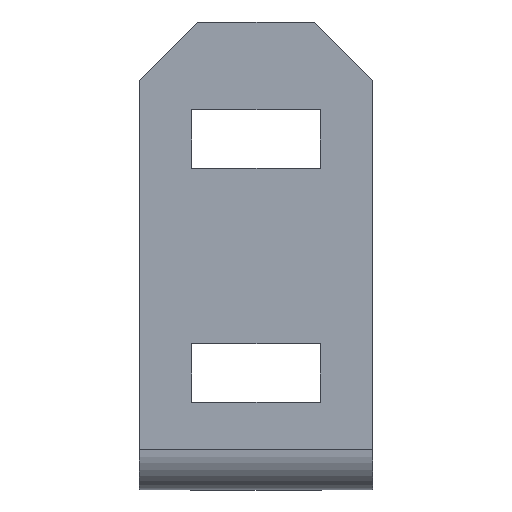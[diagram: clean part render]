
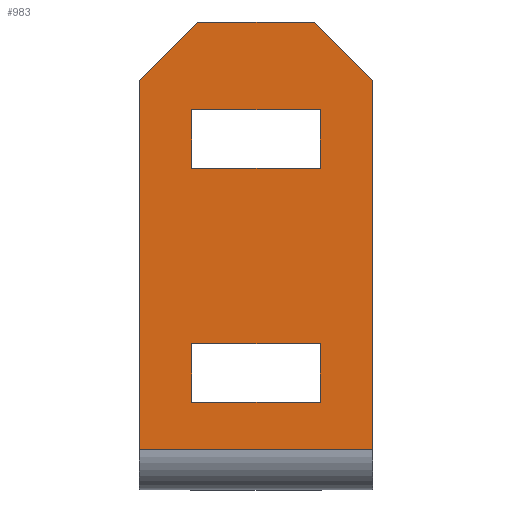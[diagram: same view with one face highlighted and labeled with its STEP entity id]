
A CAD part, front view. The second image highlights one B-rep face of the part: STEP entity #983.
In plain terms, the highlighted planar face has unit normal (0, -1, 0).
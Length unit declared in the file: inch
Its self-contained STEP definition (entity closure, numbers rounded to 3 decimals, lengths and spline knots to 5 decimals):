
#6 = ORIENTED_EDGE ( 'NONE', *, *, #1031, .F. ) ;
#20 = EDGE_LOOP ( 'NONE', ( #85, #84, #83, #82, #104, #103 ) ) ;
#21 = EDGE_LOOP ( 'NONE', ( #67, #34, #6, #105 ) ) ;
#34 = ORIENTED_EDGE ( 'NONE', *, *, #1030, .F. ) ;
#54 = EDGE_LOOP ( 'NONE', ( #81, #80, #79, #86 ) ) ;
#67 = ORIENTED_EDGE ( 'NONE', *, *, #1029, .F. ) ;
#79 = ORIENTED_EDGE ( 'NONE', *, *, #1035, .F. ) ;
#80 = ORIENTED_EDGE ( 'NONE', *, *, #1034, .F. ) ;
#81 = ORIENTED_EDGE ( 'NONE', *, *, #1033, .F. ) ;
#82 = ORIENTED_EDGE ( 'NONE', *, *, #1039, .T. ) ;
#83 = ORIENTED_EDGE ( 'NONE', *, *, #1038, .F. ) ;
#84 = ORIENTED_EDGE ( 'NONE', *, *, #1037, .T. ) ;
#85 = ORIENTED_EDGE ( 'NONE', *, *, #1015, .F. ) ;
#86 = ORIENTED_EDGE ( 'NONE', *, *, #1036, .F. ) ;
#103 = ORIENTED_EDGE ( 'NONE', *, *, #1040, .T. ) ;
#104 = ORIENTED_EDGE ( 'NONE', *, *, #1013, .F. ) ;
#105 = ORIENTED_EDGE ( 'NONE', *, *, #1032, .F. ) ;
#112 = LINE ( 'NONE', #128, #957 ) ;
#121 = LINE ( 'NONE', #122, #955 ) ;
#122 = CARTESIAN_POINT ( 'NONE',  ( 0., 0., -2. ) ) ;
#123 = DIRECTION ( 'NONE',  ( 0., 0., 1. ) ) ;
#128 = CARTESIAN_POINT ( 'NONE',  ( 1., 0., -2. ) ) ;
#129 = DIRECTION ( 'NONE',  ( 0., 0., -1. ) ) ;
#146 = LINE ( 'NONE', #185, #940 ) ;
#164 = LINE ( 'NONE', #188, #934 ) ;
#169 = LINE ( 'NONE', #170, #939 ) ;
#170 = CARTESIAN_POINT ( 'NONE',  ( 0.775, 0., -1.375 ) ) ;
#171 = DIRECTION ( 'NONE',  ( -1., 0., 0. ) ) ;
#172 = LINE ( 'NONE', #173, #938 ) ;
#173 = CARTESIAN_POINT ( 'NONE',  ( 0.775, 0., -1.625 ) ) ;
#174 = DIRECTION ( 'NONE',  ( 0., 0., 1. ) ) ;
#175 = LINE ( 'NONE', #176, #937 ) ;
#176 = CARTESIAN_POINT ( 'NONE',  ( 0.775, 0., -1.625 ) ) ;
#177 = DIRECTION ( 'NONE',  ( 1., 0., 0. ) ) ;
#178 = LINE ( 'NONE', #179, #936 ) ;
#179 = CARTESIAN_POINT ( 'NONE',  ( 0.225, 0., -1.625 ) ) ;
#180 = DIRECTION ( 'NONE',  ( 0., 0., -1. ) ) ;
#181 = LINE ( 'NONE', #183, #935 ) ;
#182 = LINE ( 'NONE', #191, #933 ) ;
#183 = CARTESIAN_POINT ( 'NONE',  ( 0.775, 0., -0.375 ) ) ;
#184 = DIRECTION ( 'NONE',  ( -1., 0., 0. ) ) ;
#185 = CARTESIAN_POINT ( 'NONE',  ( 0.775, 0., -0.625 ) ) ;
#186 = LINE ( 'NONE', #194, #932 ) ;
#187 = DIRECTION ( 'NONE',  ( 0., 0., 1. ) ) ;
#188 = CARTESIAN_POINT ( 'NONE',  ( 0.775, 0., -0.625 ) ) ;
#189 = LINE ( 'NONE', #196, #931 ) ;
#190 = DIRECTION ( 'NONE',  ( 1., 0., 0. ) ) ;
#191 = CARTESIAN_POINT ( 'NONE',  ( 0.225, 0., -0.625 ) ) ;
#192 = LINE ( 'NONE', #198, #930 ) ;
#193 = DIRECTION ( 'NONE',  ( 0., 0., -1. ) ) ;
#194 = CARTESIAN_POINT ( 'NONE',  ( 1., 0., -0.25 ) ) ;
#195 = DIRECTION ( 'NONE',  ( -0.707, 0., 0.707 ) ) ;
#196 = CARTESIAN_POINT ( 'NONE',  ( 0., 0., 0. ) ) ;
#197 = DIRECTION ( 'NONE',  ( 1., 0., 0. ) ) ;
#198 = CARTESIAN_POINT ( 'NONE',  ( 0.25, 0., 0. ) ) ;
#199 = DIRECTION ( 'NONE',  ( -0.707, 0., -0.707 ) ) ;
#200 = LINE ( 'NONE', #201, #928 ) ;
#201 = CARTESIAN_POINT ( 'NONE',  ( 0., 0., -1.827 ) ) ;
#202 = DIRECTION ( 'NONE',  ( 1., 0., 0. ) ) ;
#606 = DIRECTION ( 'NONE',  ( 0., 0., 1. ) ) ;
#610 = PLANE ( 'NONE',  #976 ) ;
#611 = FACE_OUTER_BOUND ( 'NONE', #20, .T. ) ;
#615 = FACE_BOUND ( 'NONE', #21, .T. ) ;
#616 = CARTESIAN_POINT ( 'NONE',  ( 0., 0., 0. ) ) ;
#620 = FACE_BOUND ( 'NONE', #54, .T. ) ;
#629 = DIRECTION ( 'NONE',  ( 0., 1., 0. ) ) ;
#662 = CARTESIAN_POINT ( 'NONE',  ( 0., 0., -1.827 ) ) ;
#701 = CARTESIAN_POINT ( 'NONE',  ( 0.75, 0., 0. ) ) ;
#704 = CARTESIAN_POINT ( 'NONE',  ( 0.25, 0., 0. ) ) ;
#706 = CARTESIAN_POINT ( 'NONE',  ( 0.225, 0., -0.625 ) ) ;
#707 = CARTESIAN_POINT ( 'NONE',  ( 0.225, 0., -0.375 ) ) ;
#712 = CARTESIAN_POINT ( 'NONE',  ( 0.225, 0., -1.625 ) ) ;
#713 = CARTESIAN_POINT ( 'NONE',  ( 0.775, 0., -1.625 ) ) ;
#724 = CARTESIAN_POINT ( 'NONE',  ( 0.225, 0., -1.375 ) ) ;
#728 = CARTESIAN_POINT ( 'NONE',  ( 0.775, 0., -0.625 ) ) ;
#732 = CARTESIAN_POINT ( 'NONE',  ( 0.775, 0., -1.375 ) ) ;
#733 = CARTESIAN_POINT ( 'NONE',  ( 0.775, 0., -0.375 ) ) ;
#734 = CARTESIAN_POINT ( 'NONE',  ( 1., 0., -0.25 ) ) ;
#737 = CARTESIAN_POINT ( 'NONE',  ( 1., 0., -1.827 ) ) ;
#738 = CARTESIAN_POINT ( 'NONE',  ( 0., 0., -0.25 ) ) ;
#742 = VERTEX_POINT ( 'NONE', #738 ) ;
#746 = VERTEX_POINT ( 'NONE', #734 ) ;
#747 = VERTEX_POINT ( 'NONE', #737 ) ;
#748 = VERTEX_POINT ( 'NONE', #733 ) ;
#749 = VERTEX_POINT ( 'NONE', #732 ) ;
#753 = VERTEX_POINT ( 'NONE', #728 ) ;
#757 = VERTEX_POINT ( 'NONE', #724 ) ;
#758 = VERTEX_POINT ( 'NONE', #713 ) ;
#759 = VERTEX_POINT ( 'NONE', #712 ) ;
#762 = VERTEX_POINT ( 'NONE', #707 ) ;
#763 = VERTEX_POINT ( 'NONE', #706 ) ;
#765 = VERTEX_POINT ( 'NONE', #704 ) ;
#766 = VERTEX_POINT ( 'NONE', #701 ) ;
#794 = VERTEX_POINT ( 'NONE', #662 ) ;
#928 = VECTOR ( 'NONE', #202, 39.37008 ) ;
#930 = VECTOR ( 'NONE', #199, 39.37008 ) ;
#931 = VECTOR ( 'NONE', #197, 39.37008 ) ;
#932 = VECTOR ( 'NONE', #195, 39.37008 ) ;
#933 = VECTOR ( 'NONE', #193, 39.37008 ) ;
#934 = VECTOR ( 'NONE', #190, 39.37008 ) ;
#935 = VECTOR ( 'NONE', #184, 39.37008 ) ;
#936 = VECTOR ( 'NONE', #180, 39.37008 ) ;
#937 = VECTOR ( 'NONE', #177, 39.37008 ) ;
#938 = VECTOR ( 'NONE', #174, 39.37008 ) ;
#939 = VECTOR ( 'NONE', #171, 39.37008 ) ;
#940 = VECTOR ( 'NONE', #187, 39.37008 ) ;
#955 = VECTOR ( 'NONE', #123, 39.37008 ) ;
#957 = VECTOR ( 'NONE', #129, 39.37008 ) ;
#976 = AXIS2_PLACEMENT_3D ( 'NONE', #616, #629, #606 ) ;
#983 = ADVANCED_FACE ( 'NONE', ( #615, #620, #611 ), #610, .F. ) ;
#1013 = EDGE_CURVE ( 'NONE', #794, #742, #121, .T. ) ;
#1015 = EDGE_CURVE ( 'NONE', #746, #747, #112, .T. ) ;
#1029 = EDGE_CURVE ( 'NONE', #749, #757, #169, .T. ) ;
#1030 = EDGE_CURVE ( 'NONE', #758, #749, #172, .T. ) ;
#1031 = EDGE_CURVE ( 'NONE', #759, #758, #175, .T. ) ;
#1032 = EDGE_CURVE ( 'NONE', #757, #759, #178, .T. ) ;
#1033 = EDGE_CURVE ( 'NONE', #748, #762, #181, .T. ) ;
#1034 = EDGE_CURVE ( 'NONE', #753, #748, #146, .T. ) ;
#1035 = EDGE_CURVE ( 'NONE', #763, #753, #164, .T. ) ;
#1036 = EDGE_CURVE ( 'NONE', #762, #763, #182, .T. ) ;
#1037 = EDGE_CURVE ( 'NONE', #746, #766, #186, .T. ) ;
#1038 = EDGE_CURVE ( 'NONE', #765, #766, #189, .T. ) ;
#1039 = EDGE_CURVE ( 'NONE', #765, #742, #192, .T. ) ;
#1040 = EDGE_CURVE ( 'NONE', #794, #747, #200, .T. ) ;
